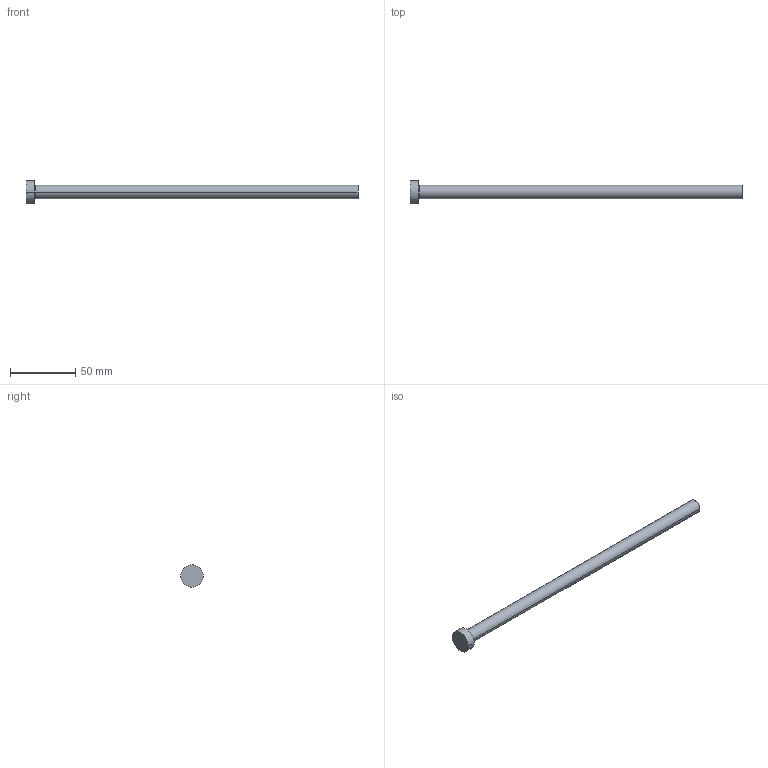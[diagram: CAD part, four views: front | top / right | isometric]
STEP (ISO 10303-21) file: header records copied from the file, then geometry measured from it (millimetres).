
FILE_DESCRIPTION (( 'STEP AP203' ), '1' );
FILE_NAME ('CPH27-10.step', '2014-03-25T00:56:17', ( '' ), ( '' ), 'SwSTEP 2.0', 'SolidWorks 2009', '' );
FILE_SCHEMA (( 'CONFIG_CONTROL_DESIGN' ));
Length unit declared in the file: inch
Products named in the file (1): CPH27-10
Bounding box: 254 x 17.46 x 17.46 mm (x, y, z)
Volume: 22230.3 mm3; surface area: 8843.8 mm2
Topology: 1 solids, 1 shells, 9 faces, 16 edges, 10 vertices
Faces by surface type: cylinder 4, plane 3, torus 2
Entity records: 305 total; most frequent: DIRECTION 48, CARTESIAN_POINT 36, ORIENTED_EDGE 32, AXIS2_PLACEMENT_3D 22, EDGE_CURVE 16, CIRCLE 12, EDGE_LOOP 10, VERTEX_POINT 10
